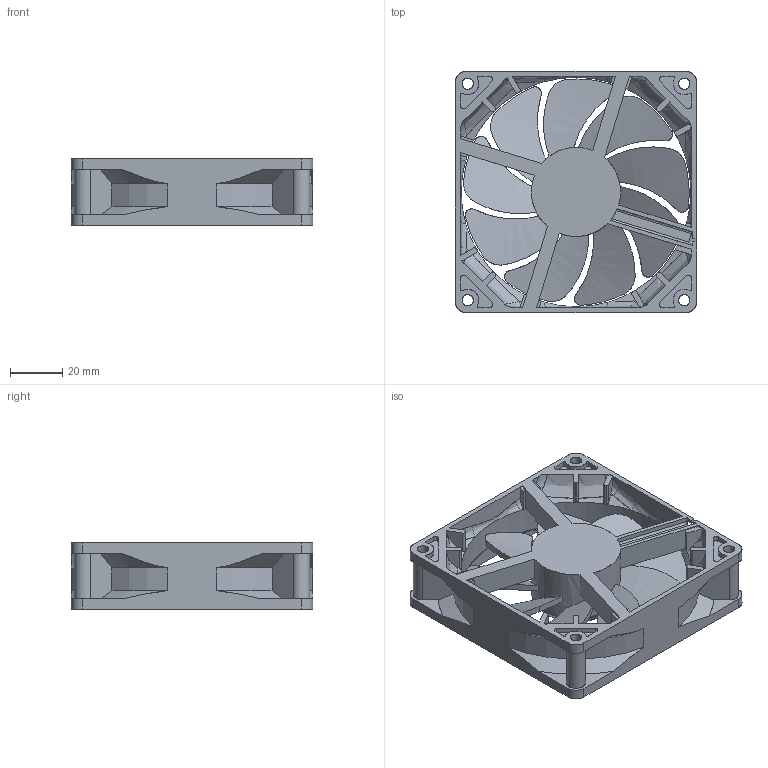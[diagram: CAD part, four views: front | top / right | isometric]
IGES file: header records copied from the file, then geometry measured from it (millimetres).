
Start section: SolidWorks IGES file using analytic representation for surfaces
Global section: file name: C:\Users\araki-souma\Desktop\9225 S LIBBED.IGS; native system: SolidWorks 2017; preprocessor: SolidWorks 2017; author: Araki-Souma; date: 170309.112353; units: millimetre
Bounding box: 92 x 92 x 25.2 mm (x, y, z)
Surface area: 43374.2 mm2 (no closed solid volume)
Topology: 0 solids, 0 shells, 468 faces, 5690 edges, 5687 vertices
Faces by surface type: revolution 252, bspline 216
